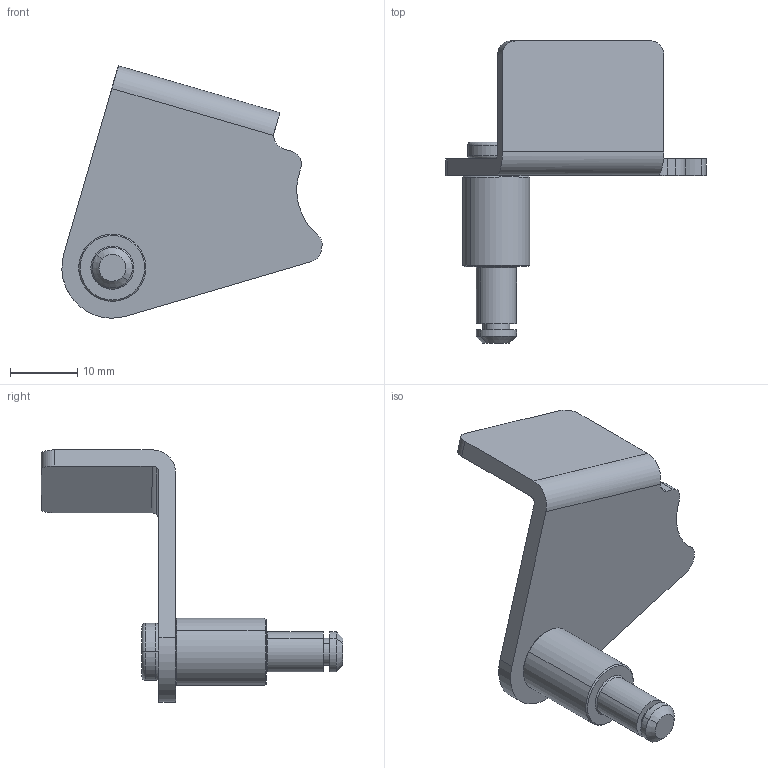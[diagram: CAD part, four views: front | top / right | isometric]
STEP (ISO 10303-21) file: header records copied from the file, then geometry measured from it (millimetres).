
FILE_DESCRIPTION(('CATIA V5 STEP Exchange'),'2;1');
FILE_NAME('C:\Users\nobody\Desktop\SHT0013239_C.stp','2024-04-22T03:37:56+00:00',('none'),('none'),'CATIA Version 5 Release 20 GA (IN-10)','CATIA V5 STEP AP203 Edition 2','none');
FILE_SCHEMA(('AP203_CONFIGURATION_CONTROLLED_3D_DESIGN_OF_MECHANICAL_PARTS_AND_ASSEMBLIES_MIM_LF { 1 0 10303 403 2 1 2}'));
Length unit declared in the file: millimetre
Products named in the file (3): SHT0013239; SHT0013109; SHT0013108
Assembly tree (2 placements, depth 2):
  SHT0013239
    SHT0013109
    SHT0013108
Bounding box: 38.71 x 44.92 x 37.53 mm (x, y, z)
Volume: 4976.2 mm3; surface area: 4121 mm2
Topology: 2 solids, 2 shells, 56 faces, 127 edges, 80 vertices
Faces by surface type: cylinder 25, plane 17, cone 10, torus 4
Entity records: 1587 total; most frequent: CARTESIAN_POINT 295, ORIENTED_EDGE 254, DIRECTION 229, EDGE_CURVE 127, AXIS2_PLACEMENT_3D 118, VERTEX_POINT 80, CIRCLE 64, EDGE_LOOP 63
